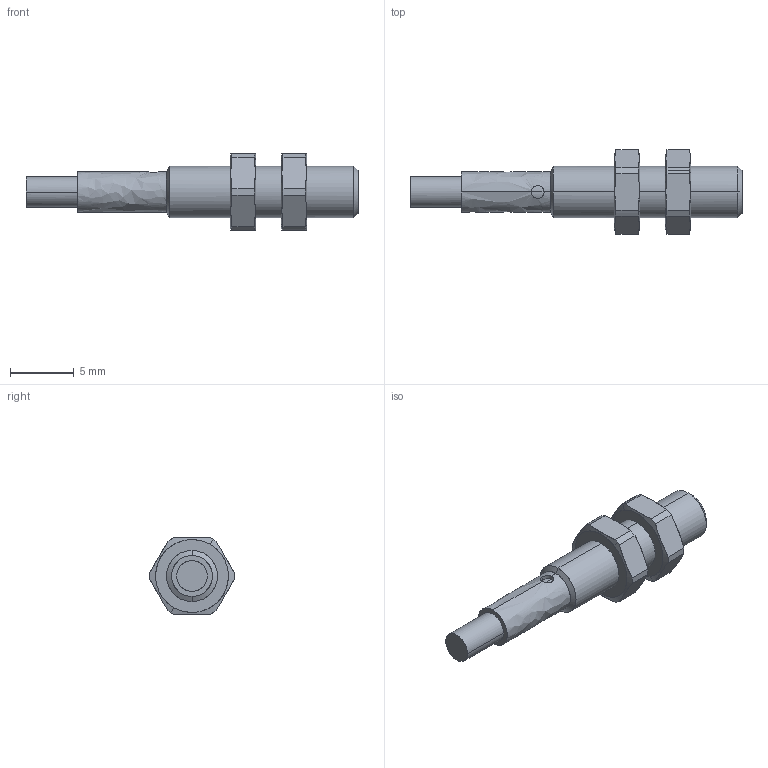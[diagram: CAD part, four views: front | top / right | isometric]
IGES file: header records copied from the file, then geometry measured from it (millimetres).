
Start section: Comment
Global section: file name: IFRM 04xxxB1_L.igs; native system:  By Spatial Corp.; preprocessor: XPlus GENERIC/IGES 3.0; author: Author; organization: Title; date: 20040805.075220; units: inch
Bounding box: 26 x 6.62 x 6 mm (x, y, z)
Surface area: 509.4 mm2 (no closed solid volume)
Topology: 0 solids, 0 shells, 67 faces, 324 edges, 324 vertices
Faces by surface type: bspline 67
